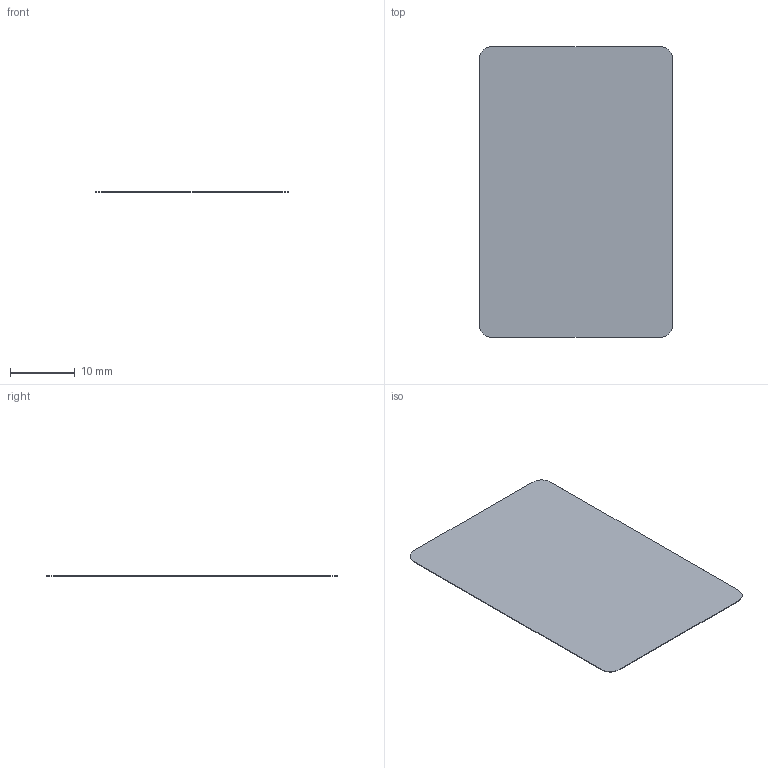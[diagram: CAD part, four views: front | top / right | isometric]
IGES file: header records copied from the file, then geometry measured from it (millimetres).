
Start section:  PTC IGES file: mylar_jack_prt.igs
Global section: file name: mylar_jack_prt.igs; native system: Pro/ENGINEER by Parametric Technology Corporation; preprocessor: 2000030; author: ECaille; organization: Unknown; date: 000803.092117; units: millimetre
Bounding box: 30 x 45 x 0.1 mm (x, y, z)
Surface area: 2707.8 mm2 (no closed solid volume)
Topology: 0 solids, 0 shells, 10 faces, 80 edges, 112 vertices
Faces by surface type: bspline 6, revolution 4
